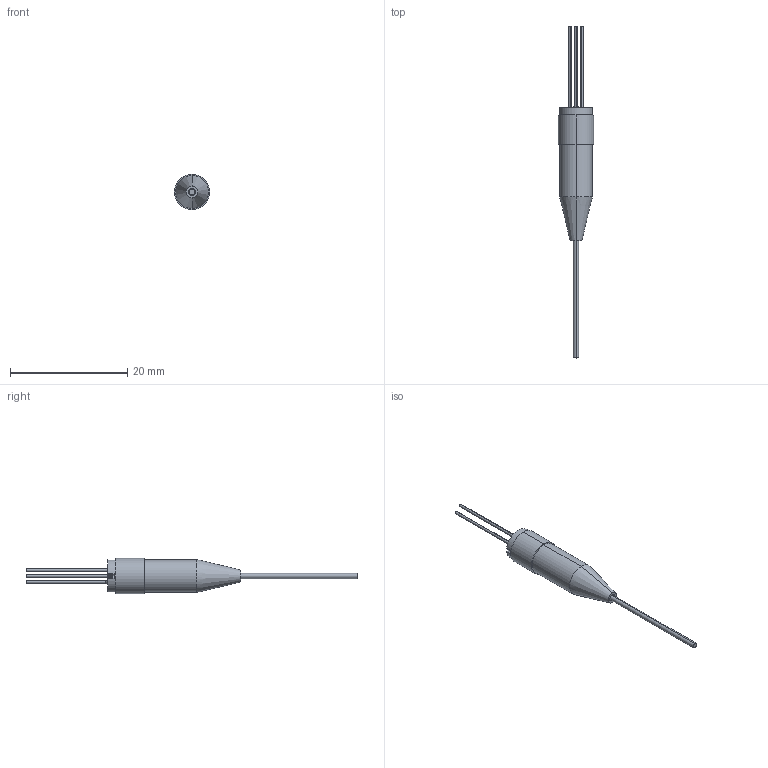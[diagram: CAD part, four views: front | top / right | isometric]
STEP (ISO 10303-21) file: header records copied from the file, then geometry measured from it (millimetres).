
FILE_DESCRIPTION (( 'STEP AP214' ), '1' );
FILE_NAME ('F7.5帣玹LD B褐.STEP', '2025-01-10T02:02:25', ( '' ), ( '' ), 'SwSTEP 2.0', 'SolidWorks 2017', '' );
FILE_SCHEMA (( 'AUTOMOTIVE_DESIGN' ));
Length unit declared in the file: millimetre
Products named in the file (1): F7.5帣玹LD B褐
Bounding box: 6 x 56.7 x 6 mm (x, y, z)
Volume: 501.6 mm3; surface area: 583.5 mm2
Topology: 1 solids, 1 shells, 396 faces, 1069 edges, 710 vertices
Faces by surface type: plane 222, bspline 129, cylinder 39, cone 4, torus 2
Entity records: 22037 total; most frequent: CARTESIAN_POINT 8537, ORIENTED_EDGE 2138, DIRECTION 1431, EDGE_CURVE 1069, LINE 727, VECTOR 727, VERTEX_POINT 710, EDGE_LOOP 431
